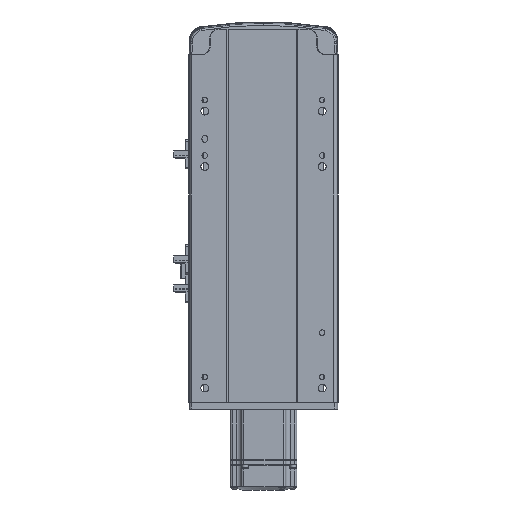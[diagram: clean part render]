
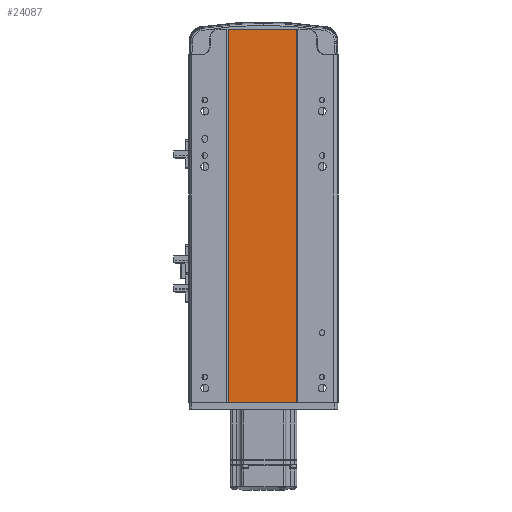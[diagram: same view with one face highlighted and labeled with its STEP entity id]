
A CAD part, front view. The second image highlights one B-rep face of the part: STEP entity #24087.
In plain terms, the highlighted planar face has unit normal (0, -1, 0).
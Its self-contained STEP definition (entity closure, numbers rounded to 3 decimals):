
#2264 = CARTESIAN_POINT ( 'NONE',  ( -32., 1., 337. ) ) ;
#2948 = CARTESIAN_POINT ( 'NONE',  ( -32., 1., 337. ) ) ;
#5157 = CARTESIAN_POINT ( 'NONE',  ( -32., 1., 337. ) ) ;
#5951 = VECTOR ( 'NONE', #13393, 1000. ) ;
#6769 = VECTOR ( 'NONE', #24508, 1000. ) ;
#6962 = EDGE_CURVE ( 'NONE', #15584, #25394, #55822, .T. ) ;
#7033 = CARTESIAN_POINT ( 'NONE',  ( 30., 1., 0. ) ) ;
#9138 = DIRECTION ( 'NONE',  ( 1., 0., 0. ) ) ;
#10679 = DIRECTION ( 'NONE',  ( -1., 0., 0. ) ) ;
#10902 = CARTESIAN_POINT ( 'NONE',  ( -32., 1., 0. ) ) ;
#11473 = VECTOR ( 'NONE', #33168, 1000. ) ;
#13393 = DIRECTION ( 'NONE',  ( 0., 0., -1. ) ) ;
#15067 = DIRECTION ( 'NONE',  ( 0., 1., 0. ) ) ;
#15569 = EDGE_LOOP ( 'NONE', ( #18947, #51924, #36005, #45627 ) ) ;
#15584 = VERTEX_POINT ( 'NONE', #10902 ) ;
#17020 = VERTEX_POINT ( 'NONE', #30378 ) ;
#17482 = EDGE_CURVE ( 'NONE', #27358, #15584, #31972, .T. ) ;
#18947 = ORIENTED_EDGE ( 'NONE', *, *, #6962, .T. ) ;
#24087 = ADVANCED_FACE ( 'NONE', ( #34783 ), #50344, .F. ) ;
#24508 = DIRECTION ( 'NONE',  ( 1., 0., 0. ) ) ;
#24591 = CARTESIAN_POINT ( 'NONE',  ( -32., 1., 337. ) ) ;
#25394 = VERTEX_POINT ( 'NONE', #7033 ) ;
#26512 = EDGE_CURVE ( 'NONE', #17020, #25394, #44189, .T. ) ;
#27358 = VERTEX_POINT ( 'NONE', #5157 ) ;
#30378 = CARTESIAN_POINT ( 'NONE',  ( 30., 1., 337. ) ) ;
#31972 = LINE ( 'NONE', #24591, #11473 ) ;
#33168 = DIRECTION ( 'NONE',  ( 0., 0., -1. ) ) ;
#34783 = FACE_OUTER_BOUND ( 'NONE', #15569, .T. ) ;
#35266 = CARTESIAN_POINT ( 'NONE',  ( -32., 1., 0. ) ) ;
#36005 = ORIENTED_EDGE ( 'NONE', *, *, #37646, .F. ) ;
#37646 = EDGE_CURVE ( 'NONE', #27358, #17020, #42964, .T. ) ;
#38782 = VECTOR ( 'NONE', #9138, 1000. ) ;
#39516 = CARTESIAN_POINT ( 'NONE',  ( 30., 1., 337. ) ) ;
#42964 = LINE ( 'NONE', #2948, #6769 ) ;
#44189 = LINE ( 'NONE', #39516, #5951 ) ;
#45627 = ORIENTED_EDGE ( 'NONE', *, *, #17482, .T. ) ;
#47714 = AXIS2_PLACEMENT_3D ( 'NONE', #2264, #15067, #10679 ) ;
#50344 = PLANE ( 'NONE',  #47714 ) ;
#51924 = ORIENTED_EDGE ( 'NONE', *, *, #26512, .F. ) ;
#55822 = LINE ( 'NONE', #35266, #38782 ) ;
